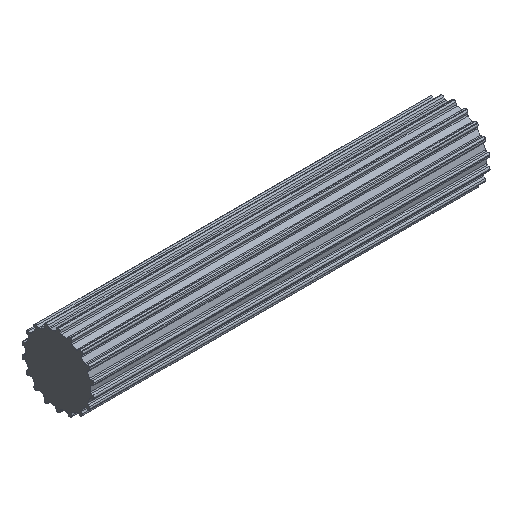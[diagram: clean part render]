
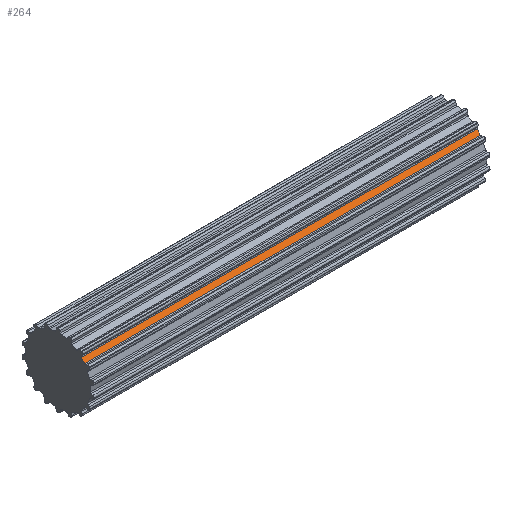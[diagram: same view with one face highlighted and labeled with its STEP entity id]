
A CAD part, isometric view. The second image highlights one B-rep face of the part: STEP entity #264.
In plain terms, the highlighted planar face has unit normal (0, -0.766, 0.643).
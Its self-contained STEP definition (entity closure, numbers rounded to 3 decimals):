
#264 = ADVANCED_FACE( '', ( #620 ), #621, .T. );
#620 = FACE_OUTER_BOUND( '', #1065, .T. );
#621 = PLANE( '', #1066 );
#1065 = EDGE_LOOP( '', ( #1739, #1740, #1741, #1742 ) );
#1066 = AXIS2_PLACEMENT_3D( '', #1743, #1744, #1745 );
#1739 = ORIENTED_EDGE( '', *, *, #3028, .F. );
#1740 = ORIENTED_EDGE( '', *, *, #3029, .F. );
#1741 = ORIENTED_EDGE( '', *, *, #3030, .T. );
#1742 = ORIENTED_EDGE( '', *, *, #3031, .T. );
#1743 = CARTESIAN_POINT( '', ( 75., -5.029, 3.59 ) );
#1744 = DIRECTION( '', ( 0., -0.766, 0.643 ) );
#1745 = DIRECTION( '', ( 0., -0.643, -0.766 ) );
#3028 = EDGE_CURVE( '', #3758, #3759, #3760, .T. );
#3029 = EDGE_CURVE( '', #3761, #3758, #3762, .T. );
#3030 = EDGE_CURVE( '', #3761, #3763, #3764, .T. );
#3031 = EDGE_CURVE( '', #3763, #3759, #3765, .T. );
#3758 = VERTEX_POINT( '', #4736 );
#3759 = VERTEX_POINT( '', #4737 );
#3760 = LINE( '', #4738, #4739 );
#3761 = VERTEX_POINT( '', #4740 );
#3762 = LINE( '', #4741, #4742 );
#3763 = VERTEX_POINT( '', #4743 );
#3764 = LINE( '', #4744, #4745 );
#3765 = LINE( '', #4746, #4747 );
#4736 = CARTESIAN_POINT( '', ( 0., -5.029, 3.59 ) );
#4737 = CARTESIAN_POINT( '', ( 0., -4.409, 4.329 ) );
#4738 = CARTESIAN_POINT( '', ( 0., -5.029, 3.59 ) );
#4739 = VECTOR( '', #5658, 1000. );
#4740 = CARTESIAN_POINT( '', ( 75., -5.029, 3.59 ) );
#4741 = CARTESIAN_POINT( '', ( 75., -5.029, 3.59 ) );
#4742 = VECTOR( '', #5659, 1000. );
#4743 = CARTESIAN_POINT( '', ( 75., -4.409, 4.329 ) );
#4744 = CARTESIAN_POINT( '', ( 75., -5.029, 3.59 ) );
#4745 = VECTOR( '', #5660, 1000. );
#4746 = CARTESIAN_POINT( '', ( 75., -4.409, 4.329 ) );
#4747 = VECTOR( '', #5661, 1000. );
#5658 = DIRECTION( '', ( 0., 0.643, 0.766 ) );
#5659 = DIRECTION( '', ( -1., 0., 0. ) );
#5660 = DIRECTION( '', ( 0., 0.643, 0.766 ) );
#5661 = DIRECTION( '', ( -1., 0., 0. ) );
